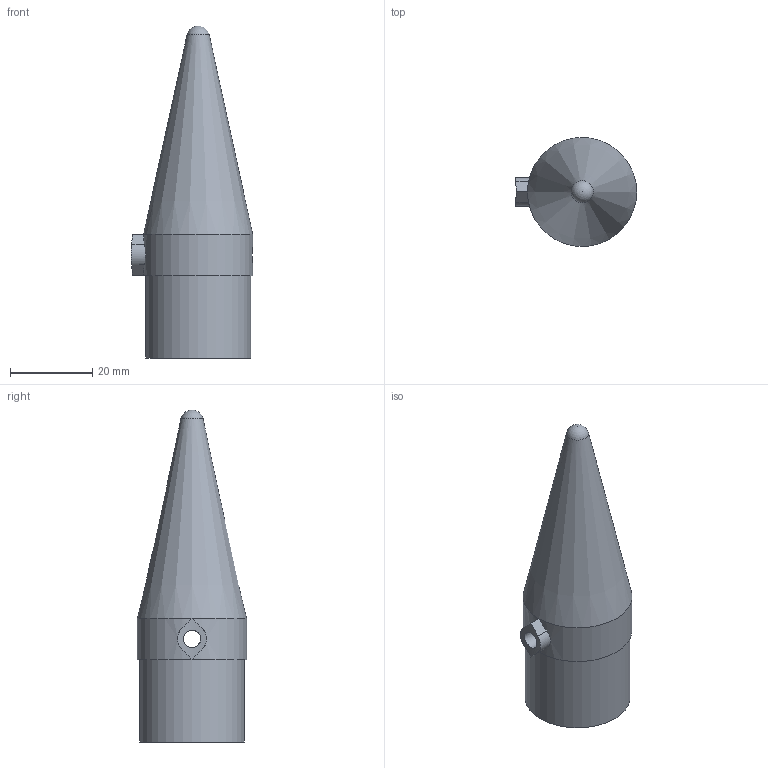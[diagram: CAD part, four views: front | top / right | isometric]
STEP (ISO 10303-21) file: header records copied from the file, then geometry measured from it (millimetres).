
FILE_DESCRIPTION(/* description */ (''),/* implementation_level */ '2;1');
FILE_NAME(/* name */ 'Booster-Spitze-Railguide.stp',/* time_stamp */ '2026-03-30T18:54:56+02:00',/* author */ ('rs22sud'),/* organization */ (''),/* preprocessor_version */ 'ST-DEVELOPER v20.1',/* originating_system */ 'Autodesk Inventor 2026',/* authorisation */ '');
FILE_SCHEMA (('AUTOMOTIVE_DESIGN { 1 0 10303 214 3 1 1 }'));
Length unit declared in the file: millimetre
Products named in the file (1): Delta_2_60mm
Bounding box: 29.42 x 26.45 x 80.5 mm (x, y, z)
Volume: 6680.1 mm3; surface area: 10250.8 mm2
Topology: 1 solids, 1 shells, 23 faces, 58 edges, 36 vertices
Faces by surface type: plane 10, cylinder 9, cone 2, sphere 2
Full cylindrical faces by diameter (mm): 4.2 x1, 23.05 x1, 25.45 x1, 26.45 x1
Entity records: 893 total; most frequent: CARTESIAN_POINT 260, DIRECTION 118, ORIENTED_EDGE 112, EDGE_CURVE 56, AXIS2_PLACEMENT_3D 50, VERTEX_POINT 36, EDGE_LOOP 28, FACE_OUTER_BOUND 23
